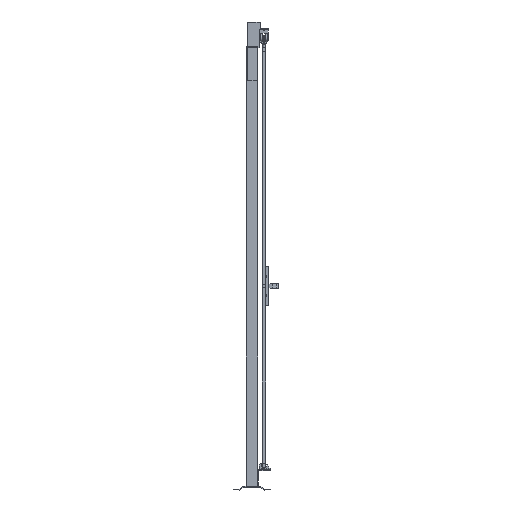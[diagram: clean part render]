
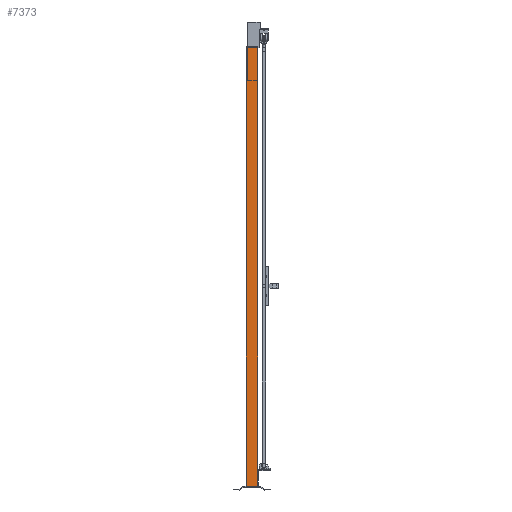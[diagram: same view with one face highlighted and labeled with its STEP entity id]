
A CAD part, left-side view. The second image highlights one B-rep face of the part: STEP entity #7373.
In plain terms, the highlighted planar face has unit normal (-1, 0, 0).
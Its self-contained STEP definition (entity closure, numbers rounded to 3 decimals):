
#603=FACE_OUTER_BOUND('',#1125,.T.);
#1125=EDGE_LOOP('',(#4364,#4365,#4366,#4367));
#1690=VERTEX_POINT('',#14953);
#1691=VERTEX_POINT('',#14955);
#1694=VERTEX_POINT('',#14962);
#1695=VERTEX_POINT('',#14964);
#2782=EDGE_CURVE('',#1690,#1691,#8425,.T.);
#2786=EDGE_CURVE('',#1694,#1695,#8429,.T.);
#2788=EDGE_CURVE('',#1691,#1694,#8431,.T.);
#2790=EDGE_CURVE('',#1690,#1695,#8433,.T.);
#4364=ORIENTED_EDGE('',*,*,#2790,.T.);
#4365=ORIENTED_EDGE('',*,*,#2786,.F.);
#4366=ORIENTED_EDGE('',*,*,#2788,.F.);
#4367=ORIENTED_EDGE('',*,*,#2782,.F.);
#6899=PLANE('',#10940);
#7373=ADVANCED_FACE('',(#603),#6899,.F.);
#8425=LINE('',#14956,#9751);
#8429=LINE('',#14965,#9755);
#8431=LINE('',#14968,#9757);
#8433=LINE('',#14971,#9759);
#9751=VECTOR('',#11930,1.);
#9755=VECTOR('',#11936,1.);
#9757=VECTOR('',#11940,1.);
#9759=VECTOR('',#11944,1.);
#10940=AXIS2_PLACEMENT_3D('',#14970,#11942,#11943);
#11930=DIRECTION('',(0.,-1.,0.));
#11936=DIRECTION('',(0.,1.,0.));
#11940=DIRECTION('',(0.,0.,-1.));
#11942=DIRECTION('center_axis',(1.,0.,0.));
#11943=DIRECTION('ref_axis',(0.,0.,-1.));
#11944=DIRECTION('',(0.,0.,-1.));
#14953=CARTESIAN_POINT('',(-30.,30.,2320.));
#14955=CARTESIAN_POINT('',(-30.,-30.,2320.));
#14956=CARTESIAN_POINT('',(-30.,0.,2320.));
#14962=CARTESIAN_POINT('',(-30.,-30.,20.));
#14964=CARTESIAN_POINT('',(-30.,30.,20.));
#14965=CARTESIAN_POINT('',(-30.,0.,20.));
#14968=CARTESIAN_POINT('',(-30.,-30.,1170.));
#14970=CARTESIAN_POINT('Origin',(-30.,0.,
1170.));
#14971=CARTESIAN_POINT('',(-30.,30.,1170.));
